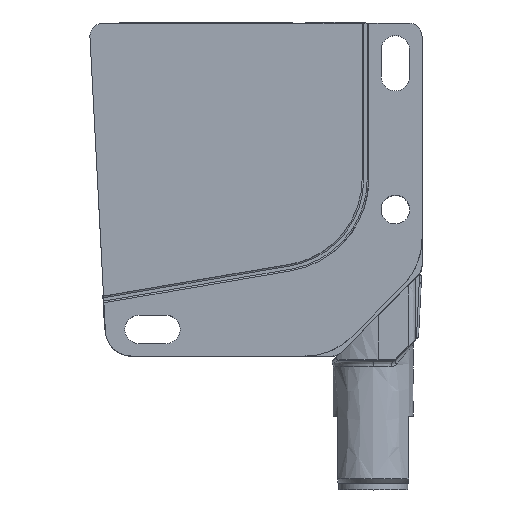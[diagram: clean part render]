
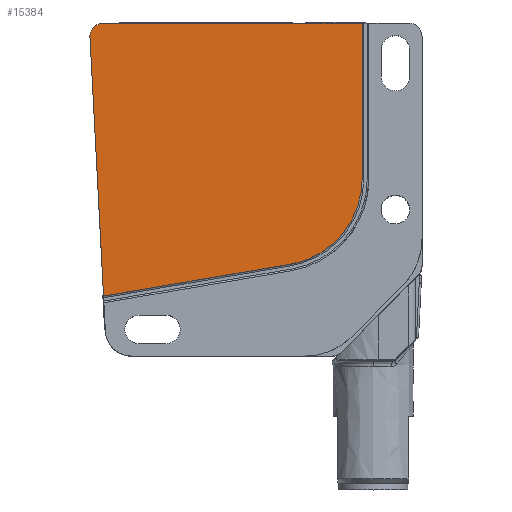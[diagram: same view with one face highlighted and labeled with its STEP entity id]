
A CAD part, top view. The second image highlights one B-rep face of the part: STEP entity #15384.
In plain terms, the highlighted free-form (B-spline) face has degree [1, 1] with [2, 2] control points.
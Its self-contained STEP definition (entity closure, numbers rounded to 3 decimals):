
#14867=CARTESIAN_POINT('V16',(30.192,13.802,
   20.75));
#14868=VERTEX_POINT('V16',#14867);
#14897=CARTESIAN_POINT('V13',(41.0,26.616,
   20.75));
#14898=VERTEX_POINT('V13',#14897);
#14912=CARTESIAN_POINT('E170',(41.0,26.616,
   20.75));
#14913=CARTESIAN_POINT('E170',(41.0,15.651,
   20.75));
#14914=CARTESIAN_POINT('E170',(30.192,13.802,
   20.75));
#14922=(BOUNDED_CURVE()B_SPLINE_CURVE(2,(#14912,#14913,#14914),
   .CIRCULAR_ARC.,.F.,.U.)B_SPLINE_CURVE_WITH_KNOTS((3,3),(0.0,
   87.722),.UNSPECIFIED.)CURVE()
   GEOMETRIC_REPRESENTATION_ITEM()RATIONAL_B_SPLINE_CURVE((1.0,
   0.764,1.0))REPRESENTATION_ITEM('E170'));
#14923=EDGE_CURVE('E170',#14898,#14868,#14922,.T.);
#14950=CARTESIAN_POINT('V14',(41.0,50.0,20.75));
#14951=VERTEX_POINT('V14',#14950);
#14965=CARTESIAN_POINT('E17',(41.0,50.0,20.75));
#14966=CARTESIAN_POINT('E17',(41.0,26.616,
   20.75));
#14967=B_SPLINE_CURVE_WITH_KNOTS('E17',1,(#14965,#14966),
   .POLYLINE_FORM.,.F.,.U.,(2,2),(0.0,93.537),
   .UNSPECIFIED.);
#14968=EDGE_CURVE('E17',#14951,#14898,#14967,.T.);
#15258=CARTESIAN_POINT('V120',(2.108,50.0,
   20.75));
#15259=VERTEX_POINT('V120',#15258);
#15282=CARTESIAN_POINT('V119',(0.11,47.895,
   20.75));
#15283=VERTEX_POINT('V119',#15282);
#15289=CARTESIAN_POINT('E172',(2.108,50.0,
   20.75));
#15290=CARTESIAN_POINT('E172',(0.,50.,
   20.75));
#15291=CARTESIAN_POINT('E172',(0.11,47.895,
   20.75));
#15299=(BOUNDED_CURVE()B_SPLINE_CURVE(2,(#15289,#15290,#15291),
   .CIRCULAR_ARC.,.F.,.U.)B_SPLINE_CURVE_WITH_KNOTS((3,3),(0.0,
   16.86),.UNSPECIFIED.)CURVE()
   GEOMETRIC_REPRESENTATION_ITEM()RATIONAL_B_SPLINE_CURVE((1.0,
   0.688,1.0))REPRESENTATION_ITEM('E172'));
#15300=EDGE_CURVE('E172',#15259,#15283,#15299,.T.);
#15325=CARTESIAN_POINT('V15',(2.148,9.006,
   20.75));
#15326=VERTEX_POINT('V15',#15325);
#15334=CARTESIAN_POINT('E171',(0.11,47.895,
   20.75));
#15335=CARTESIAN_POINT('E171',(2.148,9.006,
   20.75));
#15336=B_SPLINE_CURVE_WITH_KNOTS('E171',1,(#15334,#15335),
   .POLYLINE_FORM.,.F.,.U.,(2,2),(0.0,155.773),
   .UNSPECIFIED.);
#15337=EDGE_CURVE('E171',#15283,#15326,#15336,.T.);
#15359=CARTESIAN_POINT('E20',(30.192,13.802,
   20.75));
#15360=CARTESIAN_POINT('E20',(2.148,9.006,
   20.75));
#15361=B_SPLINE_CURVE_WITH_KNOTS('E20',1,(#15359,#15360),
   .POLYLINE_FORM.,.F.,.U.,(2,2),(0.0,113.802),
   .UNSPECIFIED.);
#15362=EDGE_CURVE('E20',#14868,#15326,#15361,.T.);
#15367=CARTESIAN_POINT('F56',(-1.934,52.05,
   20.75));
#15368=CARTESIAN_POINT('F56',(43.044,52.05,
   20.75));
#15369=CARTESIAN_POINT('F56',(-1.934,6.956,
   20.75));
#15370=CARTESIAN_POINT('F56',(43.044,6.956,
   20.75));
#15371=QUASI_UNIFORM_SURFACE('F56',1,1,((#15367,#15369),(#15368,
   #15370)),.PLANE_SURF.,.F.,.F.,.U.);
#15372=ORIENTED_EDGE('F55',*,*,#14923,.F.);
#15373=ORIENTED_EDGE('F4',*,*,#14968,.F.);
#15374=CARTESIAN_POINT('E173',(41.0,50.0,20.75));
#15375=CARTESIAN_POINT('E173',(2.108,50.0,
   20.75));
#15376=B_SPLINE_CURVE_WITH_KNOTS('E173',1,(#15374,#15375),
   .POLYLINE_FORM.,.F.,.U.,(2,2),(0.0,155.57),
   .UNSPECIFIED.);
#15377=EDGE_CURVE('E173',#14951,#15259,#15376,.T.);
#15378=ORIENTED_EDGE('E173',*,*,#15377,.T.);
#15379=ORIENTED_EDGE('F57',*,*,#15300,.T.);
#15380=ORIENTED_EDGE('F58',*,*,#15337,.T.);
#15381=ORIENTED_EDGE('F5',*,*,#15362,.F.);
#15382=EDGE_LOOP('F56',(#15372,#15373,#15378,#15379,#15380,#15381)
   );
#15383=FACE_OUTER_BOUND('F56',#15382,.T.);
#15384=ADVANCED_FACE('F56',(#15383),#15371,.F.);
